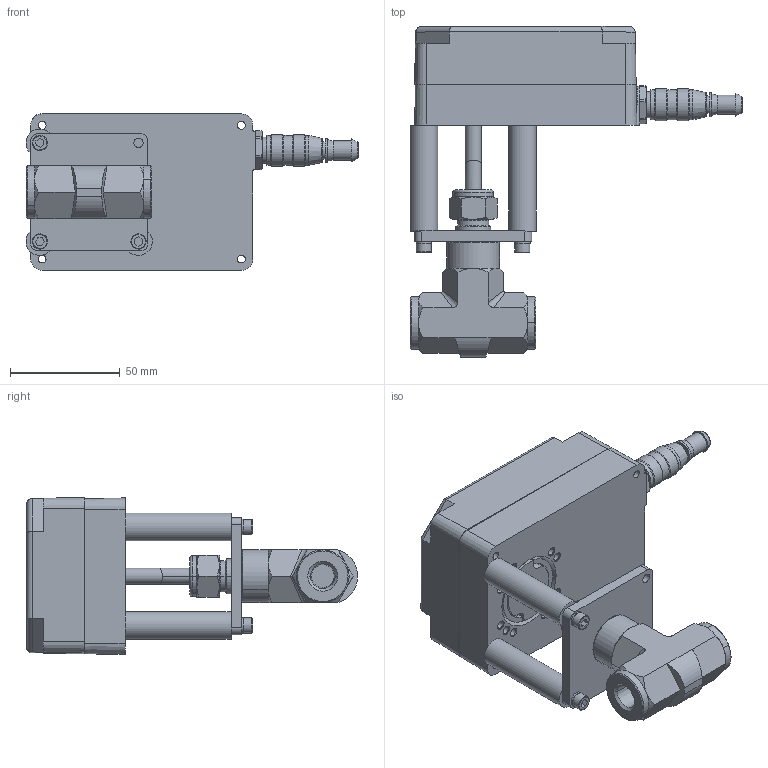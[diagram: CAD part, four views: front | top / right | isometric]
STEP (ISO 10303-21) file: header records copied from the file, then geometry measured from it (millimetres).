
FILE_DESCRIPTION (( 'STEP AP203' ), '1' );
FILE_NAME ('#M-Series Assembly w. NFSSFNS4-8R-Y (Client Copy).STEP', '2020-09-02T15:52:06', ( 'Technician #5' ), ( '' ), 'SwSTEP 2.0', 'SolidWorks 2020', '' );
FILE_SCHEMA (( 'CONFIG_CONTROL_DESIGN' ));
Length unit declared in the file: inch
Products named in the file (13): Turck-Receptacle; #M-Series Assembly w. NFSSFNS4-8R-Y (Client Copy); Turck Cable; 1106B-cast___; 1162C (1.900); 1107-cast___; 1162A; 1110-1 Drive Wheel (thicker top); Screw 8-32; Brass Washer Stamped; 1174B Valve lever; BSNPLN-Q216; NFSS-FNS4-8
Assembly tree (16 placements, depth 2):
  #M-Series Assembly w. NFSSFNS4-8R-Y (Client Copy)
    1106B-cast___
    1107-cast___
    1110-1 Drive Wheel (thicker top)
    Brass Washer Stamped
    BSNPLN-Q216
    Turck-Receptacle
    Turck Cable
    1162C (1.900)  x3
    1162A
    Screw 8-32  x3
    1174B Valve lever
    NFSS-FNS4-8
Bounding box: 151.22 x 150.72 x 71.52 mm (x, y, z)
Volume: 146749 mm3; surface area: 105274.3 mm2
Topology: 18 solids, 22 shells, 908 faces, 2225 edges, 1433 vertices
Faces by surface type: plane 337, cylinder 305, cone 225, torus 29, bspline 12
Full cylindrical faces by diameter (mm): 0.762 x5, 1.016 x5, 2.458 x2, 3.155 x1, 3.175 x1, 3.556 x6, 3.568 x14, 3.569 x7, 4.216 x4, 4.763 x3, 4.914 x4, 5.08 x1, 5.41 x4, 6.35 x1, 6.858 x3, 6.985 x3, 7.35 x1, 7.366 x2, 8 x1, 8.1 x1, 8.3 x1, 8.8 x1, 9 x1, 9.4 x1, 9.5 x1, 9.55 x1, 9.6 x1, 9.7 x1, 9.9 x1, 10 x2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
Entity records: 30332 total; most frequent: CARTESIAN_POINT 9537, DIRECTION 3945, ORIENTED_EDGE 3830, EDGE_CURVE 1916, AXIS2_PLACEMENT_3D 1560, VERTEX_POINT 1315, EDGE_LOOP 1136, FACE_OUTER_BOUND 963
